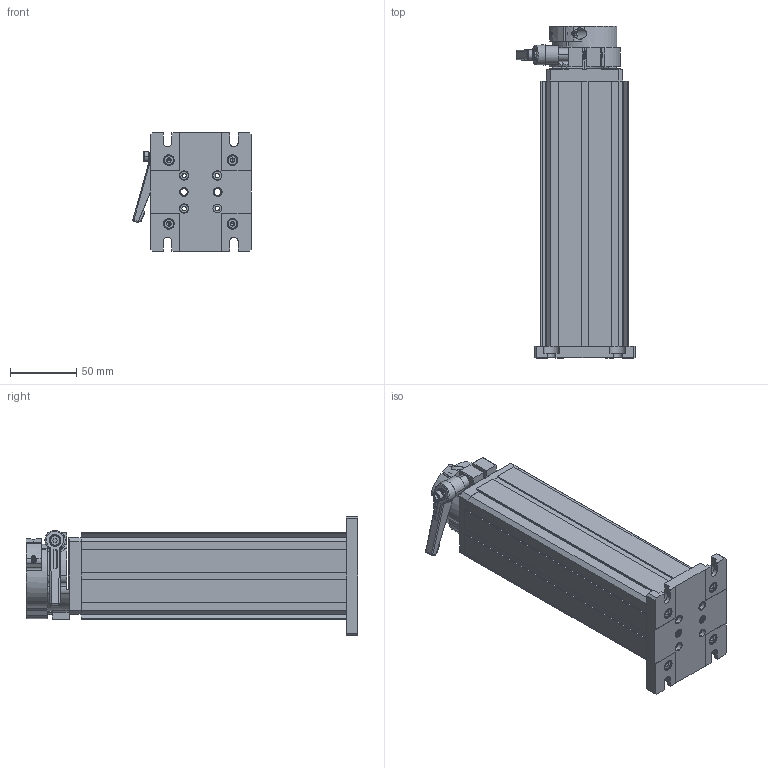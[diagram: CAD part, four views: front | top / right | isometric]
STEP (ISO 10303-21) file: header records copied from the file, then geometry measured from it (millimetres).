
FILE_DESCRIPTION((''),'2;1');
FILE_NAME('CAX-R200_ASM','2021-06-24T',('Administrator'),(''),'CREO PARAMETRIC BY PTC INC, 2015290','CREO PARAMETRIC BY PTC INC, 2015290','');
FILE_SCHEMA(('CONFIG_CONTROL_DESIGN'));
Products named in the file (13): OPS-ML; CFEP-A1_5__; M4X10_HM; PCA-K2; D3X18_AXLE; M4X12_HM; M6-16_A1; M6-16_A2; M4X14_HMZ; SPRING_6X8; M6-16_ASM; OPH_A200; CAX-R200_ASM
Assembly tree (19 placements, depth 3):
  CAX-R200_ASM
    OPS-ML
    CFEP-A1_5__
    M4X10_HM  x8
    PCA-K2
    D3X18_AXLE
    M4X12_HM
    M6-16_ASM
      M6-16_A1
      M6-16_A2
      M4X14_HMZ
      SPRING_6X8
    OPH_A200
Bounding box: 89.36 x 250.42 x 89.28 mm (x, y, z)
Volume: 422144.6 mm3; surface area: 147623.6 mm2
Topology: 18 solids, 18 shells, 1352 faces, 3380 edges, 2076 vertices
Faces by surface type: cylinder 543, plane 402, cone 215, bspline 182, torus 6, sphere 4
Entity records: 64792 total; most frequent: CARTESIAN_POINT 38545, ORIENTED_EDGE 5960, DIRECTION 4524, EDGE_CURVE 2980, VERTEX_POINT 1901, AXIS2_PLACEMENT_3D 1572, VECTOR 1380, LINE 1380
